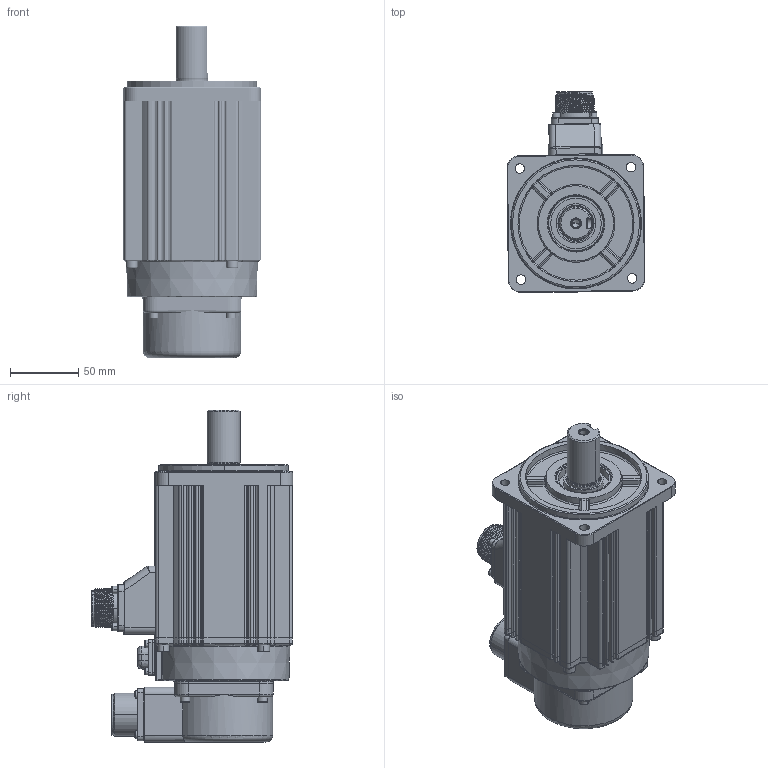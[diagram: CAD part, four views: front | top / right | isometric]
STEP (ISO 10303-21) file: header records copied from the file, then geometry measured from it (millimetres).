
FILE_DESCRIPTION((''),'2;1');
FILE_NAME('IMS20B-10M20C30C-00_ASM','2024-10-24T09:34:24',('0109067'),(''),'CREO PARAMETRIC BY PTC INC, 2019080','CREO PARAMETRIC BY PTC INC, 2019080','');
FILE_SCHEMA(('CONFIG_CONTROL_DESIGN'));
Products named in the file (20): 100_JIKE_20C_L64_2; 50051-00115_1; 18-A6-18FLANGE-CUSTOM-3D_1; ISO4762-M3X30-8_8_1; 100_DZZJ_20C_ASM_2_ASM; 100_20C_ZHOU_BZ_1; 100_HDG_BZ_1; 100_ZZZJ_20C_BZ_ASM_1_ASM; 100_FHZ_1; CMS3102A20-29PE9-A-3D_1; ISO7045-M3X16-4_8_1; ISO4762-M4X16-8_8_1; 100_FHZ_ASM_1_ASM; BAOZHA_MIFENGDIAN_1; BAOZHA_CHUXIANHE_1; M3X8-0001_1; ISO4762-M5X16-8_8_1; 13000_1; IMS20B-10M20C30C-BZ_ASM_2_ASM; IMS20B-10M20C30C-00_ASM
Assembly tree (34 placements, depth 4):
  IMS20B-10M20C30C-00_ASM
    IMS20B-10M20C30C-BZ_ASM_2_ASM
      100_DZZJ_20C_ASM_2_ASM
        100_JIKE_20C_L64_2
        50051-00115_1
        18-A6-18FLANGE-CUSTOM-3D_1
        ISO4762-M3X30-8_8_1  x4
      100_ZZZJ_20C_BZ_ASM_1_ASM
        100_20C_ZHOU_BZ_1
        100_HDG_BZ_1
      100_FHZ_ASM_1_ASM
        100_FHZ_1
        CMS3102A20-29PE9-A-3D_1
        ISO7045-M3X16-4_8_1  x4
        ISO4762-M4X16-8_8_1  x4
      BAOZHA_MIFENGDIAN_1
      BAOZHA_CHUXIANHE_1
      M3X8-0001_1  x4
      ISO4762-M5X16-8_8_1  x4
      13000_1
Bounding box: 100.95 x 147.22 x 243 mm (x, y, z)
Volume: 1634362.3 mm3; surface area: 208506.7 mm2
Topology: 30 solids, 74 shells, 4648 faces, 12616 edges, 8241 vertices
Faces by surface type: plane 2133, cylinder 1120, extrusion 812, torus 219, cone 150, bspline 135, sphere 79
Entity records: 152048 total; most frequent: CARTESIAN_POINT 47756, ORIENTED_EDGE 22704, DIRECTION 19170, EDGE_CURVE 11410, VERTEX_POINT 7524, VECTOR 7484, LINE 6672, AXIS2_PLACEMENT_3D 5843
